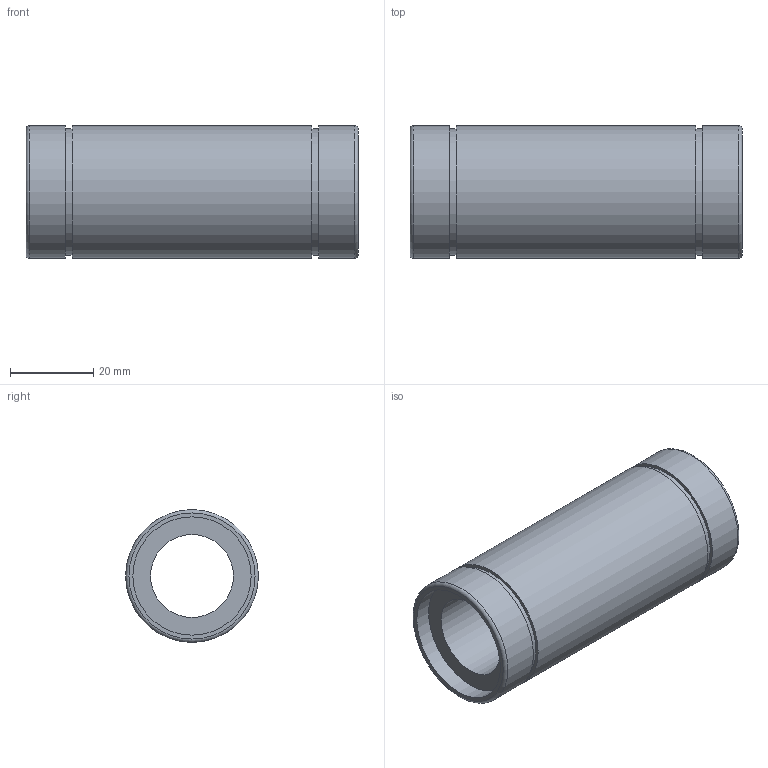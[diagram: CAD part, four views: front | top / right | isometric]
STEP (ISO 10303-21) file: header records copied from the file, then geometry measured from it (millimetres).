
FILE_DESCRIPTION( ( 'Unknown' ), '1' );
FILE_NAME( 'D:/累诀/己绕皋墨飘肺葱胶/11-04-06_档搁累己/01_府聪绢何教/LM L/LM 20L.stp', 'Unknown', ( 'Unknown' ), ( 'Unknown' ), 'PSStep 11.0', 'Unknown', ' ' );
FILE_SCHEMA( ( 'AUTOMOTIVE_DESIGN { 1 0 10303 214 1 1 1 1 }' ) );
Length unit declared in the file: millimetre
Products named in the file (1): 1
Bounding box: 80 x 32 x 32 mm (x, y, z)
Volume: 36353.9 mm3; surface area: 14472.7 mm2
Topology: 1 solids, 1 shells, 18 faces, 31 edges, 21 vertices
Faces by surface type: plane 8, cylinder 8, torus 2
Full cylindrical faces by diameter (mm): 20 x1, 28.5 x2, 30.5 x2, 32 x3
Entity records: 528 total; most frequent: DIRECTION 74, CARTESIAN_POINT 55, AXIS2_PLACEMENT_3D 37, EDGE_LOOP 36, ORIENTED_EDGE 36, FACE_OUTER_BOUND 28, STYLED_ITEM 18, PRESENTATION_STYLE_ASSIGNMENT 18
